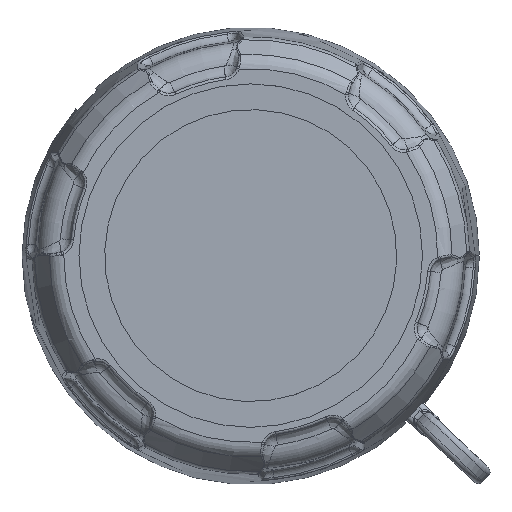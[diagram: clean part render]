
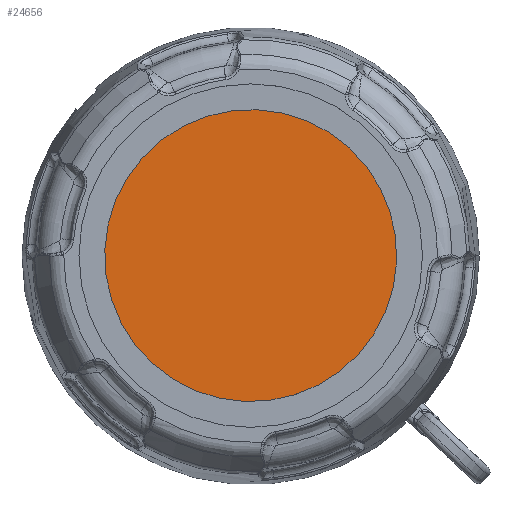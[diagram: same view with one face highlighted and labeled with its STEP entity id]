
A CAD part, top view. The second image highlights one B-rep face of the part: STEP entity #24656.
In plain terms, the highlighted planar face has unit normal (0, 0, 1).
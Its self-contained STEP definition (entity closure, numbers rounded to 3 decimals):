
#7390=CARTESIAN_POINT('',(0.,0.,38.625));
#7391=DIRECTION('',(0.,0.,-1.));
#7392=DIRECTION('',(-0.216,-0.976,0.));
#7393=AXIS2_PLACEMENT_3D('',#7390,#7391,#7392);
#7398=CARTESIAN_POINT('',(0.,0.,38.625));
#7399=DIRECTION('',(0.,0.,-1.));
#7400=DIRECTION('',(0.216,0.976,0.));
#7401=AXIS2_PLACEMENT_3D('',#7398,#7399,#7400);
#12279=CARTESIAN_POINT('',(-5.519,-24.896,38.625));
#12280=VERTEX_POINT('',#12279);
#12281=CARTESIAN_POINT('',(5.519,24.896,38.625));
#12282=VERTEX_POINT('',#12281);
#24647=CARTESIAN_POINT('',(0.,0.,38.625));
#24648=DIRECTION('',(0.,0.,-1.));
#24649=DIRECTION('',(-0.976,0.216,0.));
#24650=AXIS2_PLACEMENT_3D('',#24647,#24648,#24649);
#24651=PLANE('',#24650);
#24652=ORIENTED_EDGE('',*,*,#24634,.T.);
#24653=ORIENTED_EDGE('',*,*,#24613,.T.);
#24654=EDGE_LOOP('',(#24652,#24653));
#24655=FACE_OUTER_BOUND('',#24654,.F.);
#7394=CIRCLE('',#7393,25.5);
#7402=CIRCLE('',#7401,25.5);
#24613=EDGE_CURVE('',#12282,#12280,#7402,.T.);
#24634=EDGE_CURVE('',#12280,#12282,#7394,.T.);
#24656=ADVANCED_FACE('',(#24655),#24651,.F.);
